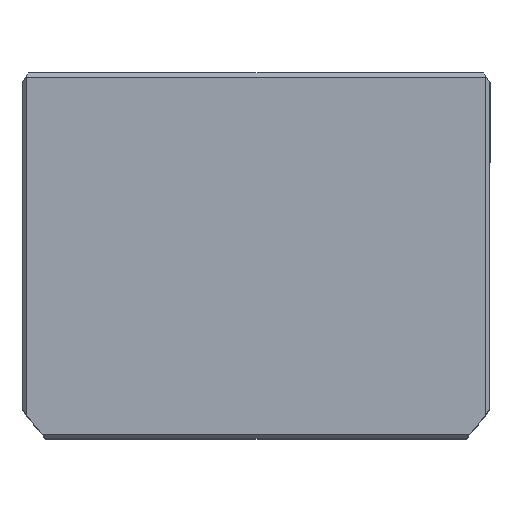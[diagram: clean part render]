
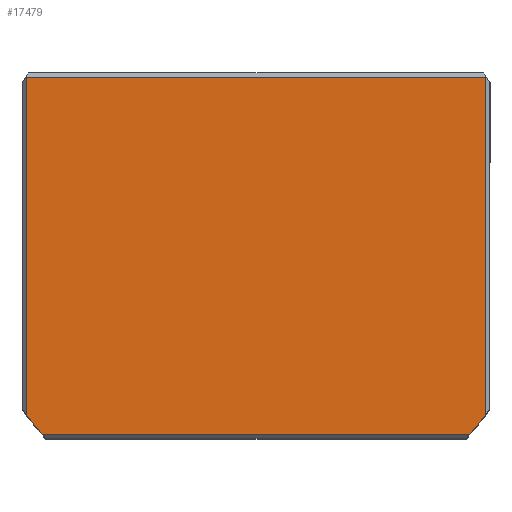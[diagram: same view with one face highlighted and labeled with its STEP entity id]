
A CAD part, top view. The second image highlights one B-rep face of the part: STEP entity #17479.
In plain terms, the highlighted planar face has unit normal (0, 0, 1) as drawn and (0, 0, -1) by its records, which use the part's own axes.
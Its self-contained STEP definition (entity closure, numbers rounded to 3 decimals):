
#118 = AXIS2_PLACEMENT_3D ( 'NONE', #16724, #18551, #7719 ) ;
#955 = VECTOR ( 'NONE', #9856, 1000. ) ;
#1072 = EDGE_CURVE ( 'NONE', #10088, #19666, #16767, .T. ) ;
#1402 = LINE ( 'NONE', #9481, #9973 ) ;
#1678 = EDGE_CURVE ( 'NONE', #21357, #19666, #1402, .T. ) ;
#1835 = CARTESIAN_POINT ( 'NONE',  ( 0., -43.5, 0. ) ) ;
#2258 = CARTESIAN_POINT ( 'NONE',  ( 0., -2.5, 0. ) ) ;
#2419 = DIRECTION ( 'NONE',  ( 0., 0., 1. ) ) ;
#3067 = DIRECTION ( 'NONE',  ( 0., 1., 0. ) ) ;
#3510 = EDGE_CURVE ( 'NONE', #11556, #21357, #8114, .T. ) ;
#4051 = PLANE ( 'NONE',  #118 ) ;
#4302 = DIRECTION ( 'NONE',  ( 1., 0., 0. ) ) ;
#4656 = CIRCLE ( 'NONE', #13303, 69.5 ) ;
#4936 = ORIENTED_EDGE ( 'NONE', *, *, #3510, .T. ) ;
#5516 = EDGE_CURVE ( 'NONE', #18267, #22356, #4656, .T. ) ;
#6936 = CARTESIAN_POINT ( 'NONE',  ( 56., 38.661, 0. ) ) ;
#7017 = CARTESIAN_POINT ( 'NONE',  ( -56., -43.5, 0. ) ) ;
#7511 = ORIENTED_EDGE ( 'NONE', *, *, #1072, .F. ) ;
#7670 = CARTESIAN_POINT ( 'NONE',  ( -52.098, 43.5, 0. ) ) ;
#7719 = DIRECTION ( 'NONE',  ( 1., 0., 0. ) ) ;
#8114 = LINE ( 'NONE', #1835, #12331 ) ;
#8744 = CARTESIAN_POINT ( 'NONE',  ( 56., 0., 0. ) ) ;
#9079 = DIRECTION ( 'NONE',  ( -1., 0., 0. ) ) ;
#9481 = CARTESIAN_POINT ( 'NONE',  ( -56., 0., 0. ) ) ;
#9677 = CARTESIAN_POINT ( 'NONE',  ( 0., -2.5, 0. ) ) ;
#9739 = DIRECTION ( 'NONE',  ( 0., -1., 0. ) ) ;
#9856 = DIRECTION ( 'NONE',  ( 1., 0., 0. ) ) ;
#9973 = VECTOR ( 'NONE', #3067, 1000. ) ;
#10088 = VERTEX_POINT ( 'NONE', #7670 ) ;
#10178 = EDGE_CURVE ( 'NONE', #18267, #11556, #22533, .T. ) ;
#10508 = EDGE_CURVE ( 'NONE', #10088, #22356, #10585, .T. ) ;
#10585 = LINE ( 'NONE', #22520, #955 ) ;
#11197 = ORIENTED_EDGE ( 'NONE', *, *, #10508, .T. ) ;
#11415 = CARTESIAN_POINT ( 'NONE',  ( -56., 38.661, 0. ) ) ;
#11485 = DIRECTION ( 'NONE',  ( 1., 0., 0. ) ) ;
#11556 = VERTEX_POINT ( 'NONE', #17968 ) ;
#11985 = FACE_OUTER_BOUND ( 'NONE', #12141, .T. ) ;
#12141 = EDGE_LOOP ( 'NONE', ( #20559, #15193, #4936, #17685, #7511, #11197 ) ) ;
#12331 = VECTOR ( 'NONE', #9079, 1000. ) ;
#12459 = CARTESIAN_POINT ( 'NONE',  ( 52.098, 43.5, 0. ) ) ;
#13303 = AXIS2_PLACEMENT_3D ( 'NONE', #9677, #22336, #11485 ) ;
#15193 = ORIENTED_EDGE ( 'NONE', *, *, #10178, .T. ) ;
#16724 = CARTESIAN_POINT ( 'NONE',  ( 0., 0., 0. ) ) ;
#16767 = CIRCLE ( 'NONE', #16905, 69.5 ) ;
#16905 = AXIS2_PLACEMENT_3D ( 'NONE', #2258, #2419, #4302 ) ;
#17479 = ADVANCED_FACE ( 'NONE', ( #11985 ), #4051, .F. ) ;
#17666 = VECTOR ( 'NONE', #9739, 1000. ) ;
#17685 = ORIENTED_EDGE ( 'NONE', *, *, #1678, .T. ) ;
#17968 = CARTESIAN_POINT ( 'NONE',  ( 56., -43.5, 0. ) ) ;
#18267 = VERTEX_POINT ( 'NONE', #6936 ) ;
#18551 = DIRECTION ( 'NONE',  ( 0., 0., 1. ) ) ;
#19666 = VERTEX_POINT ( 'NONE', #11415 ) ;
#20559 = ORIENTED_EDGE ( 'NONE', *, *, #5516, .F. ) ;
#21357 = VERTEX_POINT ( 'NONE', #7017 ) ;
#22336 = DIRECTION ( 'NONE',  ( 0., 0., 1. ) ) ;
#22356 = VERTEX_POINT ( 'NONE', #12459 ) ;
#22520 = CARTESIAN_POINT ( 'NONE',  ( 0., 43.5, 0. ) ) ;
#22533 = LINE ( 'NONE', #8744, #17666 ) ;
